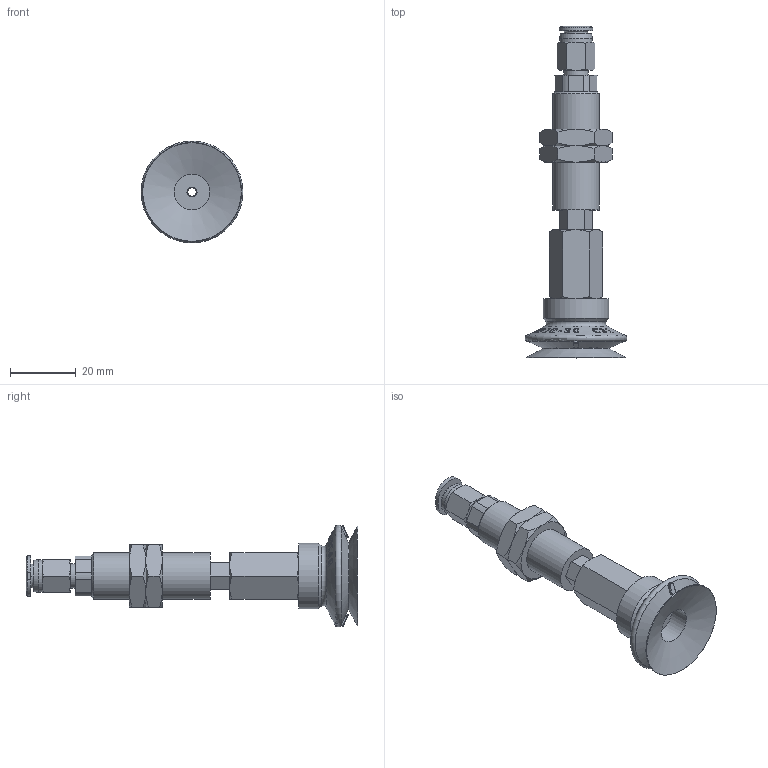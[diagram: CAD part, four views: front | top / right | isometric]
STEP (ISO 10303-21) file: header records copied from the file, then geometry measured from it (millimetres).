
FILE_DESCRIPTION(('STEP AP214'),'1');
FILE_NAME('-O.stp','2026-01-21T06:16:20',(' '),(' '),'Spatial InterOp 3D',' ',' ');
FILE_SCHEMA(('AUTOMOTIVE_DESIGN { 1 0 10303 214 1 1 1 1 }'));
Length unit declared in the file: millimetre
Products named in the file (8): BNABPJTH-30-6-※-O; PC-C_06-M5; BPJG-30-※; ADAPTER; NAPJTH-30-6-MBODY; Adapter-30-NAPJ; NAPJH-30-6-NUT; NAPJTH-30-6-FBODY
Assembly tree (8 placements, depth 2):
  BNABPJTH-30-6-※-O
    PC-C_06-M5
    BPJG-30-※
    ADAPTER
    NAPJTH-30-6-MBODY
    Adapter-30-NAPJ
    NAPJH-30-6-NUT  x2
    NAPJTH-30-6-FBODY
Bounding box: 30.99 x 100.98 x 30.99 mm (x, y, z)
Volume: 17252.7 mm3; surface area: 13511.1 mm2
Topology: 7 solids, 10 shells, 831 faces, 2273 edges, 1488 vertices
Faces by surface type: plane 696, cone 83, cylinder 36, torus 9, bspline 4, revolution 3
Full cylindrical faces by diameter (mm): 3 x3, 4 x2, 4.134 x1, 4.917 x1, 5 x1, 5.8 x1, 6 x1, 7 x1, 7.4 x1, 8.2 x1, 10 x1, 10.8 x1, 11 x1, 13.188 x2, 14 x1, 20 x1
Entity records: 33148 total; most frequent: CARTESIAN_POINT 8291, ORIENTED_EDGE 4350, DIRECTION 2820, EDGE_CURVE 2177, VERTEX_POINT 1454, B_SPLINE_CURVE_WITH_KNOTS 1093, AXIS2_PLACEMENT_3D 945, LINE 927
